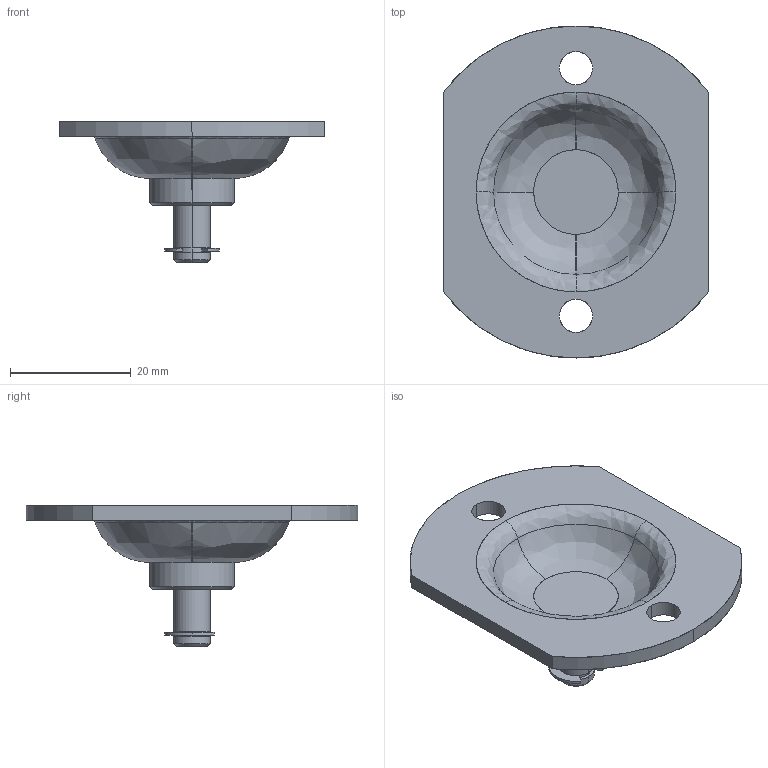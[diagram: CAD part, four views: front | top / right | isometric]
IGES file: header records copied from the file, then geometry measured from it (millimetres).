
Start section: SolidWorks IGES file using analytic representation for surfaces
Bounding box: 44 x 55 x 23.5 mm (x, y, z)
Surface area: 5655.6 mm2 (no closed solid volume)
Topology: 0 solids, 0 shells, 60 faces, 837 edges, 837 vertices
Faces by surface type: revolution 31, bspline 29
